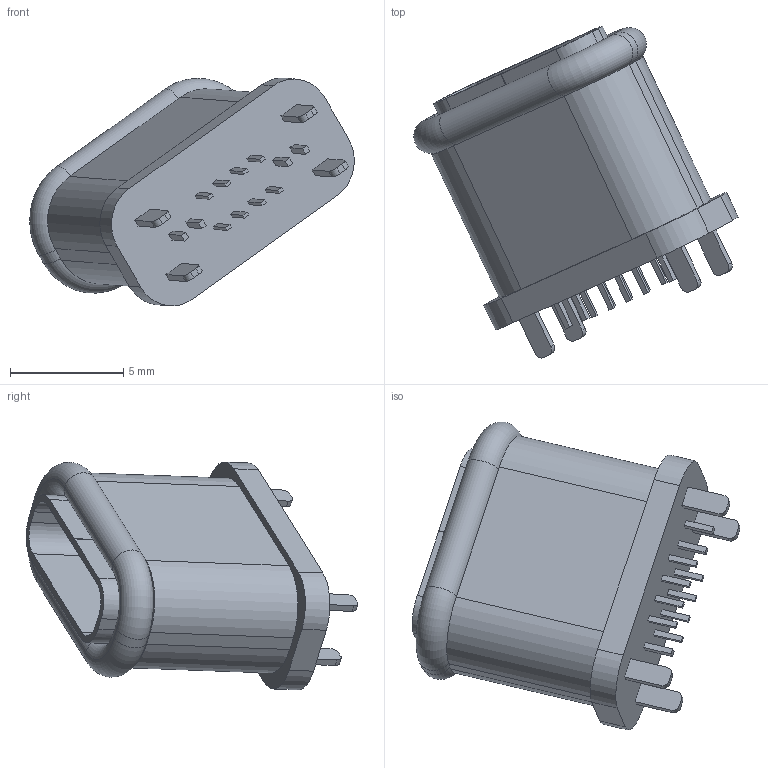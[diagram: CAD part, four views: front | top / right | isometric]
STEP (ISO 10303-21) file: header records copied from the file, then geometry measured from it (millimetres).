
FILE_DESCRIPTION((''),'2;1');
FILE_NAME('3626','2023-06-07T16:21:56',('Administrator'),(''),'CREO PARAMETRIC BY PTC INC, 2019080','CREO PARAMETRIC BY PTC INC, 2019080','');
FILE_SCHEMA(('CONFIG_CONTROL_DESIGN'));
Length unit declared in the file: millimetre
Products named in the file (1): 3626
Bounding box: 14.33 x 14.66 x 10.06 mm (x, y, z)
Volume: 451.4 mm3; surface area: 888.7 mm2
Topology: 1 solids, 1 shells, 431 faces, 1191 edges, 779 vertices
Faces by surface type: plane 279, cylinder 122, torus 17, bspline 5, sphere 4, cone 4
Entity records: 14679 total; most frequent: CARTESIAN_POINT 3516, ORIENTED_EDGE 2370, DIRECTION 2236, EDGE_CURVE 1185, VECTOR 850, LINE 850, VERTEX_POINT 779, AXIS2_PLACEMENT_3D 693
